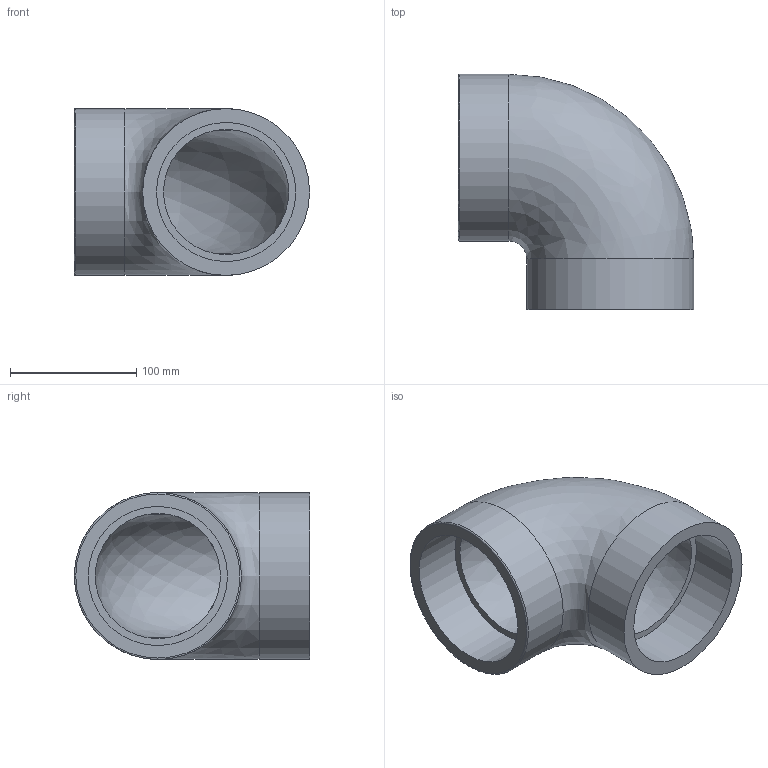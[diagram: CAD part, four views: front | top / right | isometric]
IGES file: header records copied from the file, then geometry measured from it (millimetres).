
Global section: file name: 050501040.ipt; native system: Autodesk Inventor 2015; preprocessor: unknown; author: KIM; date: 20171207.164702; units: millimetre
Bounding box: 186 x 186 x 132 mm (x, y, z)
Volume: 1084507 mm3; surface area: 163817.6 mm2
Topology: 1 solids, 1 shells, 11 faces, 25 edges, 18 vertices
Faces by surface type: revolution 5, plane 4, cylinder 2
Full cylindrical faces by diameter (mm): 132 x2
